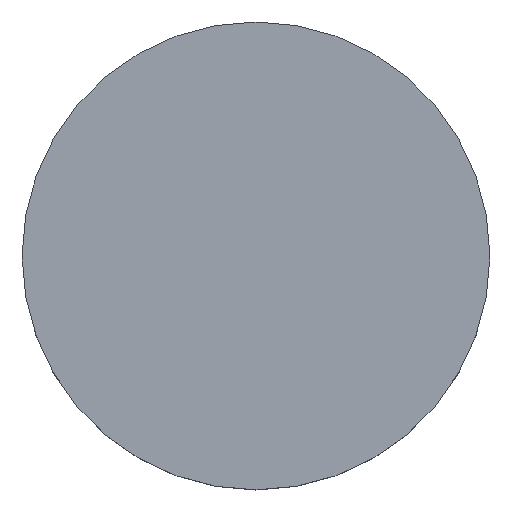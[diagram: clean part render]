
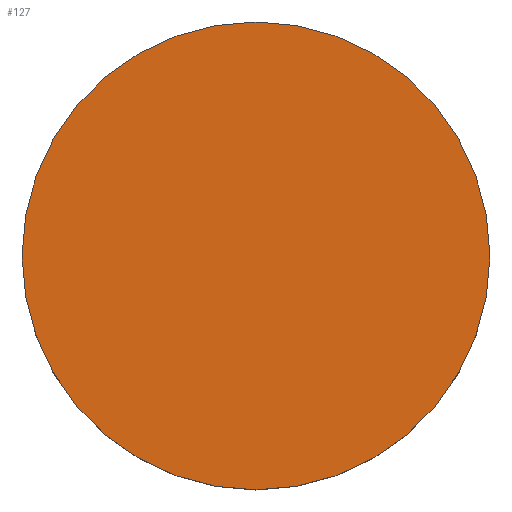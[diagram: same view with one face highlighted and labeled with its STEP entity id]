
A CAD part, top view. The second image highlights one B-rep face of the part: STEP entity #127.
In plain terms, the highlighted planar face has unit normal (0, 0, 1).
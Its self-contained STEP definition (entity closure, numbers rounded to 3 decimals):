
#42 = VERTEX_POINT('',#43);
#43 = CARTESIAN_POINT('',(50.,0.,18.));
#50 = CYLINDRICAL_SURFACE('',#51,50.);
#51 = AXIS2_PLACEMENT_3D('',#52,#53,#54);
#52 = CARTESIAN_POINT('',(0.,0.,0.));
#53 = DIRECTION('',(-0.,-0.,-1.));
#54 = DIRECTION('',(1.,0.,0.));
#69 = EDGE_CURVE('',#42,#42,#70,.T.);
#70 = SURFACE_CURVE('',#71,(#76,#83),.PCURVE_S1.);
#71 = CIRCLE('',#72,50.);
#72 = AXIS2_PLACEMENT_3D('',#73,#74,#75);
#73 = CARTESIAN_POINT('',(0.,0.,18.));
#74 = DIRECTION('',(0.,0.,1.));
#75 = DIRECTION('',(1.,0.,0.));
#76 = PCURVE('',#50,#77);
#77 = DEFINITIONAL_REPRESENTATION('',(#78),#82);
#78 = LINE('',#79,#80);
#79 = CARTESIAN_POINT('',(-0.,-18.));
#80 = VECTOR('',#81,1.);
#81 = DIRECTION('',(-1.,0.));
#82 = ( GEOMETRIC_REPRESENTATION_CONTEXT(2) 
PARAMETRIC_REPRESENTATION_CONTEXT() REPRESENTATION_CONTEXT('2D SPACE',''
  ) );
#83 = PCURVE('',#84,#89);
#84 = PLANE('',#85);
#85 = AXIS2_PLACEMENT_3D('',#86,#87,#88);
#86 = CARTESIAN_POINT('',(0.,0.,18.));
#87 = DIRECTION('',(0.,0.,1.));
#88 = DIRECTION('',(1.,0.,-0.));
#89 = DEFINITIONAL_REPRESENTATION('',(#90),#94);
#90 = CIRCLE('',#91,50.);
#91 = AXIS2_PLACEMENT_2D('',#92,#93);
#92 = CARTESIAN_POINT('',(0.,0.));
#93 = DIRECTION('',(1.,0.));
#94 = ( GEOMETRIC_REPRESENTATION_CONTEXT(2) 
PARAMETRIC_REPRESENTATION_CONTEXT() REPRESENTATION_CONTEXT('2D SPACE',''
  ) );
#127 = ADVANCED_FACE('',(#128),#84,.T.);
#128 = FACE_BOUND('',#129,.T.);
#129 = EDGE_LOOP('',(#130));
#130 = ORIENTED_EDGE('',*,*,#69,.T.);
